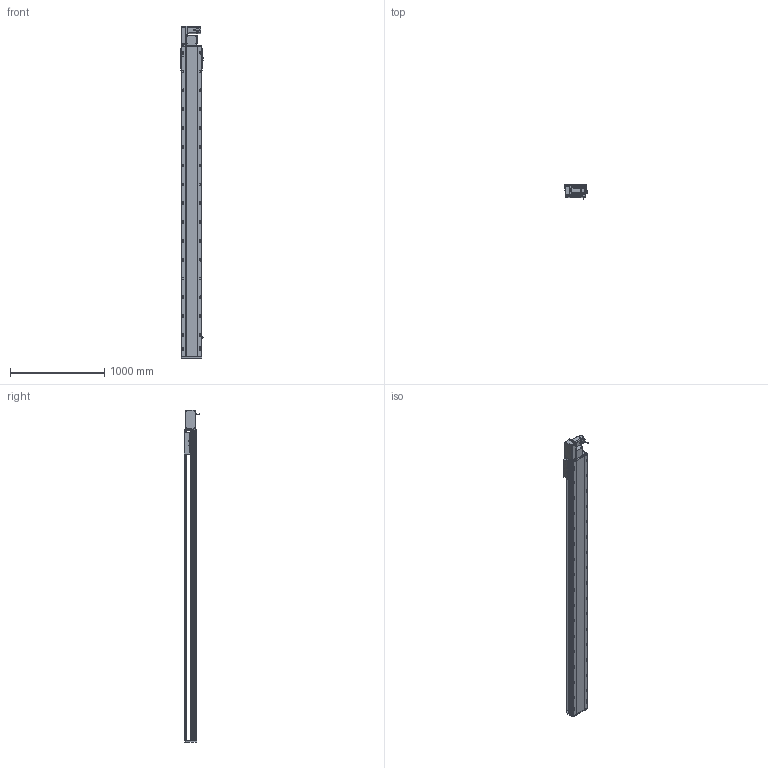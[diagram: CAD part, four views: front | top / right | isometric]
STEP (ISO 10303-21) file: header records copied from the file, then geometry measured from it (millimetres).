
FILE_DESCRIPTION (( 'STEP AP214' ), '1' );
FILE_NAME ('RTB22S-XX-2950-L-M75-C4.STEP', '2025-12-12T03:30:18', ( '' ), ( '' ), 'SwSTEP 2.0', 'SolidWorks 2018', '' );
FILE_SCHEMA (( 'AUTOMOTIVE_DESIGN' ));
Length unit declared in the file: millimetre
Products named in the file (14): RTB22S-GY-008-M75--萇儂啣^RTB22S-L-々湍釱蚾饜_RTB22S-XX-XX-L-M75-C4; RTB22S-GY-018P^RTB22S-L-々湍釱蚾饜_RTB22S-XX-XX-L-M75-C4; RTB22S-L-004賑釱^RTB22S-XX-XX-L-M75-C4; RTB22S-L-011菁釱^RTB22S-XX-XX-L-M75-C4; RTB22S-GY-007奻裔^RTB22S-XX-XX-L-M75-C4; RTB22S-GY-005P^RTB22S-L-々湍釱蚾饜_RTB22S-XX-XX-L-M75-C4; 750W萇儂^RTB22S-XX-XX-L-M75-C4; RTH22-GY-013外置感应片^RTB22S-XX-XX-L-M75-C4; RTB22S-GY-014--々湍釱^RTB22S-L-々湍釱蚾饜_RTB22S-XX-XX-L-M75-C4; RTB22S-GY-017P^RTB22S-L-々湍釱蚾饜_RTB22S-XX-XX-L-M75-C4; RTB22S-XX-2950-L-M75-C4; RTB22S-L-々湍釱蚾饜^RTB22S-XX-XX-L-M75-C4; OMRON EE-SX672 传感器^RTB22S-XX-XX-L-M75-C4; RTB22S-GY-001耜裔^RTB22S-XX-XX-L-M75-C4
Assembly tree (16 placements, depth 3):
  RTB22S-XX-2950-L-M75-C4
    RTB22S-L-011菁釱^RTB22S-XX-XX-L-M75-C4
    750W萇儂^RTB22S-XX-XX-L-M75-C4
    RTB22S-L-004賑釱^RTB22S-XX-XX-L-M75-C4
    OMRON EE-SX672 传感器^RTB22S-XX-XX-L-M75-C4  x3
    RTH22-GY-013外置感应片^RTB22S-XX-XX-L-M75-C4
    RTB22S-GY-007奻裔^RTB22S-XX-XX-L-M75-C4
    RTB22S-GY-001耜裔^RTB22S-XX-XX-L-M75-C4
    RTB22S-L-々湍釱蚾饜^RTB22S-XX-XX-L-M75-C4
      RTB22S-GY-014--々湍釱^RTB22S-L-々湍釱蚾饜_RTB22S-XX-XX-L-M75-C4
      RTB22S-GY-017P^RTB22S-L-々湍釱蚾饜_RTB22S-XX-XX-L-M75-C4  x2
      RTB22S-GY-005P^RTB22S-L-々湍釱蚾饜_RTB22S-XX-XX-L-M75-C4
      RTB22S-GY-008-M75--萇儂啣^RTB22S-L-々湍釱蚾饜_RTB22S-XX-XX-L-M75-C4
      RTB22S-GY-018P^RTB22S-L-々湍釱蚾饜_RTB22S-XX-XX-L-M75-C4
Bounding box: 238.5 x 162.7 x 3529 mm (x, y, z)
Volume: 44007678.2 mm3; surface area: 4487758.1 mm2
Topology: 15 solids, 15 shells, 2145 faces, 5836 edges, 3722 vertices
Faces by surface type: plane 933, cylinder 730, bspline 296, cone 174, sphere 8, torus 4
Entity records: 58690 total; most frequent: CARTESIAN_POINT 16504, ORIENTED_EDGE 8388, DIRECTION 8228, EDGE_CURVE 4194, AXIS2_PLACEMENT_3D 2962, VERTEX_POINT 2726, LINE 2304, VECTOR 2304
